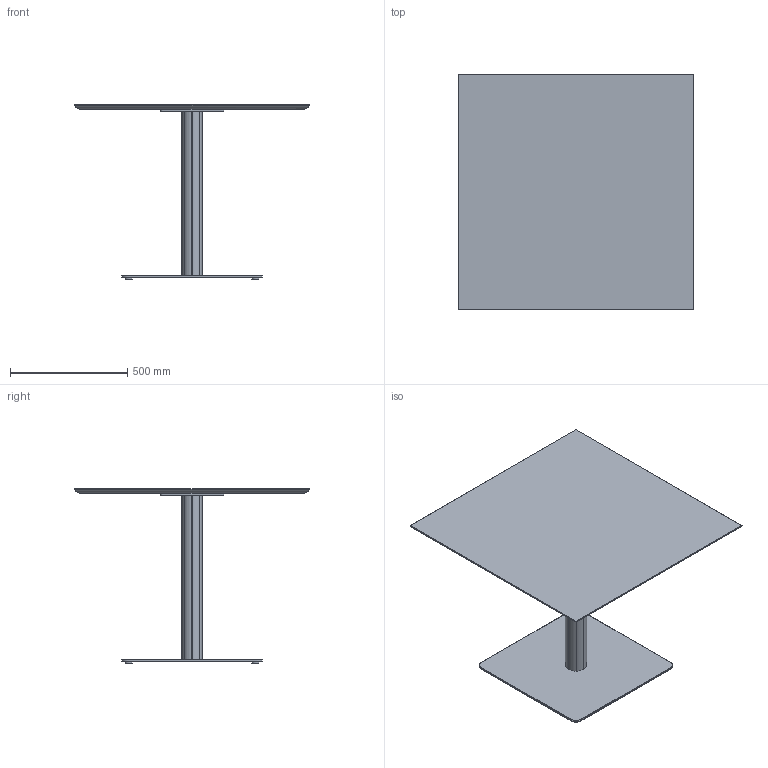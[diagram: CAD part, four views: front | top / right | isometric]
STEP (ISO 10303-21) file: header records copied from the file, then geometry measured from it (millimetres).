
FILE_DESCRIPTION( ('This file contains a STEP AP42 implementation' ,'as created by ZW3D STEP Interface translator.') ,'2;1' );
FILE_NAME( 'Fut - B_Carré - F4 - M3 - 1000 x 1000 x 750.stp' ,'24 911.163818', (''), ('ZWCAD Software Co.'), 'Version 1.0', 'ZW3D to STEP translator', '' );
FILE_SCHEMA(('AUTOMOTIVE_DESIGN { 1 0 10303 214 1 1 1 1 }'));
Length unit declared in the file: millimetre
Products named in the file (15): 0; PIED BISTROT PARAMETRIQUE_; CROIX ACIER 370 V.02_; CRX-X370-02_; SOCLE ACIER L 600x600 V.02_; SCL-R600-02_; PLA-R30A-01_; PLA-R30A-01; COLONNE ACIER Ø48.5 V.02_; TUB-D048-02_; PLA-R48A-01_; COLONNE BOIS PARAMETIQUE_; WUERTH 0276063020 Euro-screw 6.3x2 Verzinkt_; PLATEAU BISTROT PARAMETRIQUE_; insert_m6_13_
Assembly tree (23 placements, depth 3):
  0
  PIED BISTROT PARAMETRIQUE_
    CROIX ACIER 370 V.02_
      CRX-X370-02_
    SOCLE ACIER L 600x600 V.02_
      SCL-R600-02_
      PLA-R30A-01_
      PLA-R30A-01  x3
    COLONNE ACIER Ø48.5 V.02_
      TUB-D048-02_
      PLA-R48A-01_  x2
    COLONNE BOIS PARAMETIQUE_
    WUERTH 0276063020 Euro-screw 6.3x2 Verzinkt_
    PLATEAU BISTROT PARAMETRIQUE_
      insert_m6_13_  x8
Bounding box: 1000 x 1000 x 744 mm (x, y, z)
Volume: 25771327.7 mm3; surface area: 3558564.2 mm2
Topology: 23 solids, 23 shells, 557 faces, 1354 edges, 850 vertices
Faces by surface type: plane 278, bspline 125, cylinder 108, cone 45, torus 1
Full cylindrical faces by diameter (mm): 4.88 x1, 6 x8, 6.3 x1, 8 x45, 12 x2, 14 x2, 30 x4, 44.5 x3, 48.5 x1
Entity records: 13051 total; most frequent: CARTESIAN_POINT 3597, ORIENTED_EDGE 1722, DIRECTION 1592, EDGE_CURVE 861, VERTEX_POINT 552, VECTOR 550, LINE 550, AXIS2_PLACEMENT_3D 521
